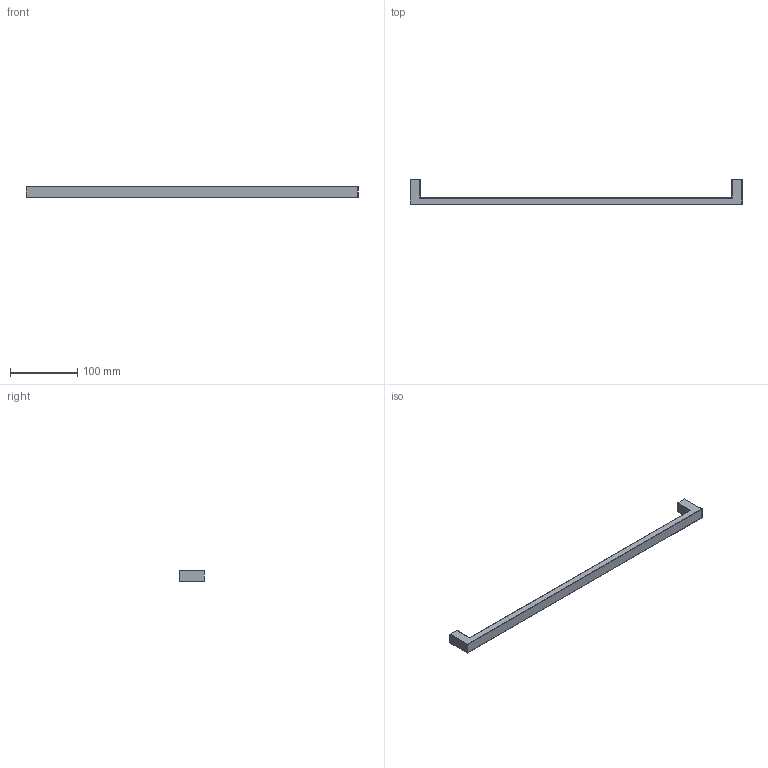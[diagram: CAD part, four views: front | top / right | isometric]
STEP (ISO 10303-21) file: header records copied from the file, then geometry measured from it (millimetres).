
FILE_DESCRIPTION( ( 'STEP AP214' ), '1' );
FILE_NAME( 'C:/Users/kulkarni/Desktop/Apurva/2015/Prodecor_2016/Cadfiles/same as files/aosta/9207357.stp', ' ', ( ' ' ), ( ' ' ), 'PSStep 15.0.47', 'PARTsolutions', ' ' );
FILE_SCHEMA( ( 'AUTOMOTIVE_DESIGN { 1 0 10303 214 1 1 1 1 }' ) );
Length unit declared in the file: millimetre
Products named in the file (1): _9207357
Bounding box: 495 x 37 x 16 mm (x, y, z)
Volume: 91842.2 mm3; surface area: 29128.8 mm2
Topology: 1 solids, 1 shells, 34 faces, 82 edges, 52 vertices
Faces by surface type: cylinder 18, plane 16
Full cylindrical faces by diameter (mm): 4 x2
Entity records: 1272 total; most frequent: DIRECTION 182, CARTESIAN_POINT 167, ORIENTED_EDGE 160, EDGE_CURVE 80, AXIS2_PLACEMENT_3D 67, VERTEX_POINT 52, LINE 48, VECTOR 48
